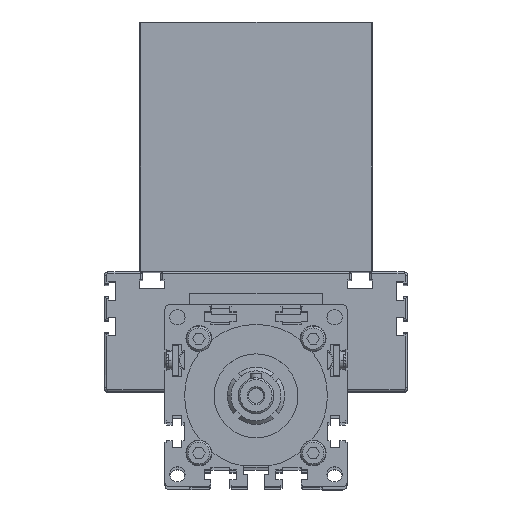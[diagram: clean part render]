
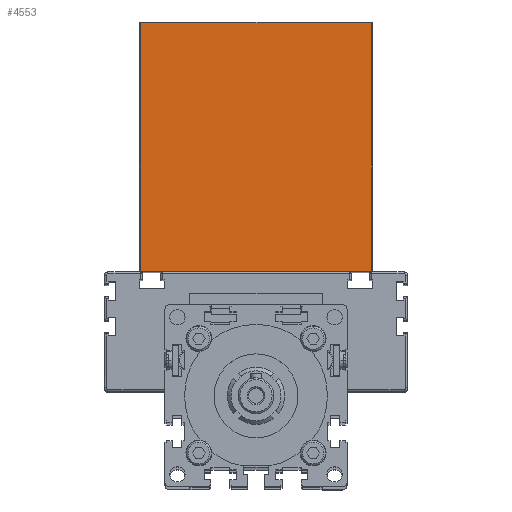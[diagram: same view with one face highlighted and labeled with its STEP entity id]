
A CAD part, top view. The second image highlights one B-rep face of the part: STEP entity #4553.
In plain terms, the highlighted planar face has unit normal (0, 0, 1) as drawn and (0, 0, -1) by its records, which use the part's own axes.
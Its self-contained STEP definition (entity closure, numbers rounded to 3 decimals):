
#355 = VERTEX_POINT ( 'NONE', #24130 ) ;
#1681 = ORIENTED_EDGE ( 'NONE', *, *, #10531, .T. ) ;
#2509 = ORIENTED_EDGE ( 'NONE', *, *, #20672, .T. ) ;
#2859 = LINE ( 'NONE', #3046, #8616 ) ;
#3046 = CARTESIAN_POINT ( 'NONE',  ( 0.5, 0., -135. ) ) ;
#4477 = VERTEX_POINT ( 'NONE', #16746 ) ;
#4553 = ADVANCED_FACE ( 'NONE', ( #19969 ), #32279, .F. ) ;
#5559 = EDGE_CURVE ( 'NONE', #39021, #355, #2859, .T. ) ;
#5654 = CARTESIAN_POINT ( 'NONE',  ( 129.5, 0., -135. ) ) ;
#5929 = VECTOR ( 'NONE', #31348, 1000. ) ;
#8616 = VECTOR ( 'NONE', #30460, 1000. ) ;
#9251 = DIRECTION ( 'NONE',  ( 0., -1., 0. ) ) ;
#9975 = VECTOR ( 'NONE', #30237, 1000. ) ;
#10531 = EDGE_CURVE ( 'NONE', #4477, #39021, #16804, .T. ) ;
#13383 = CARTESIAN_POINT ( 'NONE',  ( 0., 0.5, -135. ) ) ;
#16746 = CARTESIAN_POINT ( 'NONE',  ( 129.5, 0.5, -135. ) ) ;
#16804 = LINE ( 'NONE', #13383, #5929 ) ;
#17426 = ORIENTED_EDGE ( 'NONE', *, *, #38739, .T. ) ;
#18429 = ORIENTED_EDGE ( 'NONE', *, *, #5559, .T. ) ;
#19969 = FACE_OUTER_BOUND ( 'NONE', #33206, .T. ) ;
#20672 = EDGE_CURVE ( 'NONE', #37637, #4477, #21157, .T. ) ;
#21157 = LINE ( 'NONE', #5654, #9975 ) ;
#23988 = LINE ( 'NONE', #26627, #27624 ) ;
#24130 = CARTESIAN_POINT ( 'NONE',  ( 0.5, 139.5, -135. ) ) ;
#26627 = CARTESIAN_POINT ( 'NONE',  ( 130., 139.5, -135. ) ) ;
#27207 = AXIS2_PLACEMENT_3D ( 'NONE', #30844, #39715, #9251 ) ;
#27624 = VECTOR ( 'NONE', #29648, 1000. ) ;
#29648 = DIRECTION ( 'NONE',  ( 1., 0., 0. ) ) ;
#30237 = DIRECTION ( 'NONE',  ( 0., -1., 0. ) ) ;
#30460 = DIRECTION ( 'NONE',  ( 0., 1., 0. ) ) ;
#30844 = CARTESIAN_POINT ( 'NONE',  ( 130., 0., -135. ) ) ;
#31348 = DIRECTION ( 'NONE',  ( -1., 0., 0. ) ) ;
#32279 = PLANE ( 'NONE',  #27207 ) ;
#33206 = EDGE_LOOP ( 'NONE', ( #2509, #1681, #18429, #17426 ) ) ;
#33392 = CARTESIAN_POINT ( 'NONE',  ( 129.5, 139.5, -135. ) ) ;
#37457 = CARTESIAN_POINT ( 'NONE',  ( 0.5, 0.5, -135. ) ) ;
#37637 = VERTEX_POINT ( 'NONE', #33392 ) ;
#38739 = EDGE_CURVE ( 'NONE', #355, #37637, #23988, .T. ) ;
#39021 = VERTEX_POINT ( 'NONE', #37457 ) ;
#39715 = DIRECTION ( 'NONE',  ( 0., 0., 1. ) ) ;
